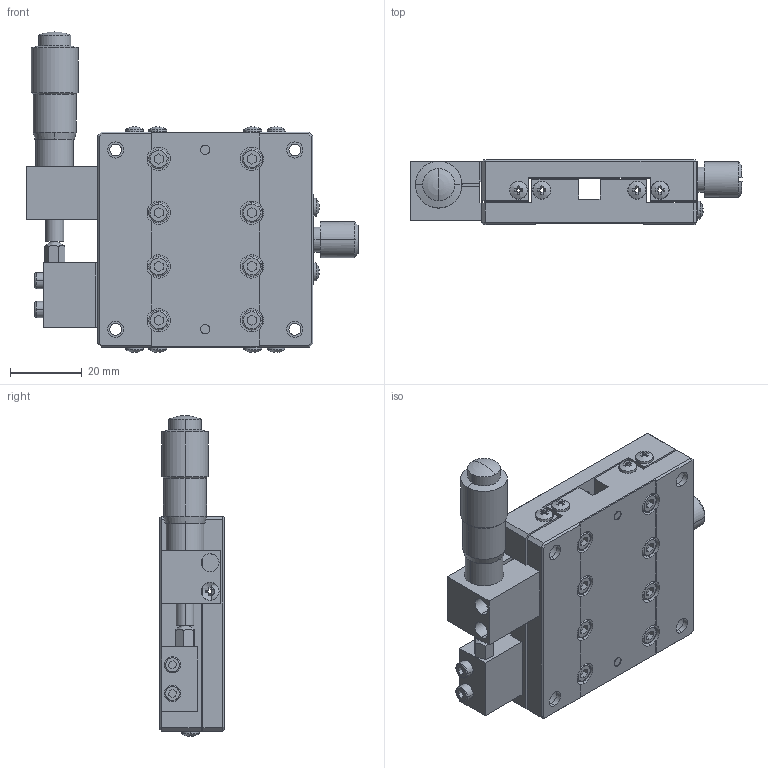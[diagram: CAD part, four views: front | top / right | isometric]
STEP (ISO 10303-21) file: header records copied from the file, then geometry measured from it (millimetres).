
FILE_DESCRIPTION (( 'STEP AP214' ), '1' );
FILE_NAME ('X60-L.STEP', '2022-09-04T03:07:06', ( '' ), ( '' ), 'SwSTEP 2.0', 'SolidWorks 2017', '' );
FILE_SCHEMA (( 'AUTOMOTIVE_DESIGN' ));
Length unit declared in the file: millimetre
Products named in the file (1): X60-L
Bounding box: 92.6 x 18.1 x 89.45 mm (x, y, z)
Surface area: 30118.4 mm2 (no closed solid volume)
Topology: 0 solids, 37 shells, 648 faces, 1782 edges, 1179 vertices
Faces by surface type: plane 370, cylinder 160, cone 67, bspline 49, torus 2
Entity records: 23081 total; most frequent: CARTESIAN_POINT 7040, DIRECTION 3224, ORIENTED_EDGE 3205, EDGE_CURVE 1780, VERTEX_POINT 1179, AXIS2_PLACEMENT_3D 1121, VECTOR 982, LINE 982
